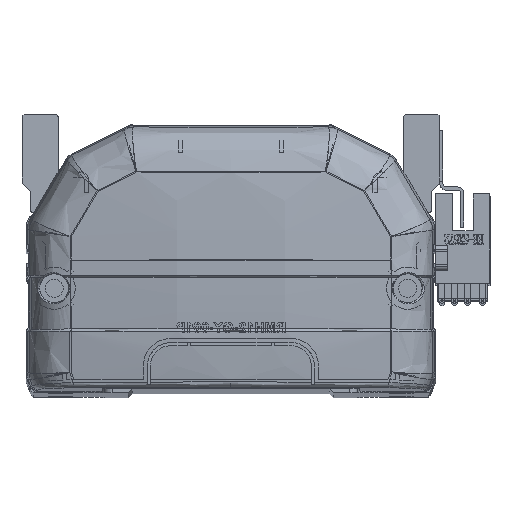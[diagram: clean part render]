
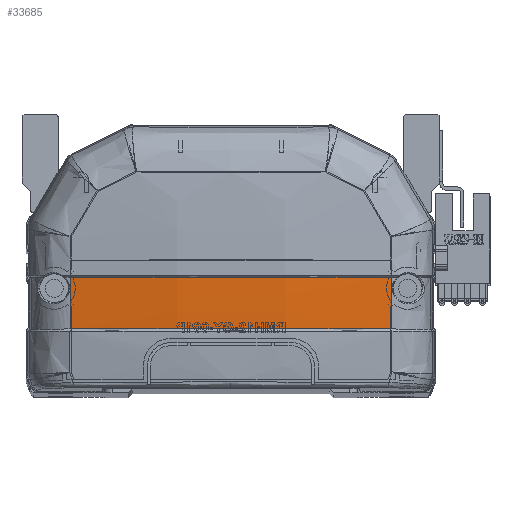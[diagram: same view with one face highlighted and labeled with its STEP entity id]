
A CAD part, top view. The second image highlights one B-rep face of the part: STEP entity #33685.
In plain terms, the highlighted free-form (B-spline) face has degree [3, 3] with [4, 4] control points.
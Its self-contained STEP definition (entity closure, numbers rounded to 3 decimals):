
#1383 = VERTEX_POINT ( 'NONE', #38737 ) ;
#1691 = CARTESIAN_POINT ( 'NONE',  ( -13.598, 24.342, -10.47 ) ) ;
#2018 = CARTESIAN_POINT ( 'NONE',  ( -13.598, 19.918, -10.302 ) ) ;
#2598 = CARTESIAN_POINT ( 'NONE',  ( -6.692, 15.83, -8.984 ) ) ;
#3015 = CARTESIAN_POINT ( 'NONE',  ( -13.373, 28.707, -9.468 ) ) ;
#4153 = ORIENTED_EDGE ( 'NONE', *, *, #28339, .T. ) ;
#5441 = CARTESIAN_POINT ( 'NONE',  ( 13.598, 19.918, -10.302 ) ) ;
#6231 = CARTESIAN_POINT ( 'NONE',  ( 39.973, 20.12, -6.142 ) ) ;
#7169 = EDGE_CURVE ( 'NONE', #1383, #9226, #37295, .T. ) ;
#7353 = CARTESIAN_POINT ( 'NONE',  ( -39.963, 28.706, -6.372 ) ) ;
#9226 = VERTEX_POINT ( 'NONE', #41699 ) ;
#9933 = CARTESIAN_POINT ( 'NONE',  ( 39.963, 28.706, -6.372 ) ) ;
#10164 = CARTESIAN_POINT ( 'NONE',  ( -23.389, 15.83, -7.947 ) ) ;
#10336 = CARTESIAN_POINT ( 'NONE',  ( 26.761, 15.83, -7.945 ) ) ;
#12951 = B_SPLINE_CURVE_WITH_KNOTS ( 'NONE', 3,
 ( #7353, #22303, #14831, #44831 ),
 .UNSPECIFIED., .F., .F.,
 ( 4, 4 ),
 ( 0., 1. ),
 .UNSPECIFIED. ) ;
#13239 = CARTESIAN_POINT ( 'NONE',  ( 13.598, 15.499, -10.032 ) ) ;
#13838 = CARTESIAN_POINT ( 'NONE',  ( 39.963, 28.706, -6.372 ) ) ;
#14140 = CARTESIAN_POINT ( 'NONE',  ( -36.679, 15.83, -6.395 ) ) ;
#14177 = CARTESIAN_POINT ( 'NONE',  ( 39.985, 15.83, -5.879 ) ) ;
#14296 = CARTESIAN_POINT ( 'NONE',  ( -39.985, 15.83, -5.879 ) ) ;
#14831 = CARTESIAN_POINT ( 'NONE',  ( -39.973, 20.118, -6.142 ) ) ;
#15267 = B_SPLINE_CURVE_WITH_KNOTS ( 'NONE', 3,
 ( #14177, #6231, #48672, #13838 ),
 .UNSPECIFIED., .F., .F.,
 ( 4, 4 ),
 ( 0., 1. ),
 .UNSPECIFIED. ) ;
#15737 = EDGE_CURVE ( 'NONE', #25195, #9226, #12951, .T. ) ;
#16475 = FACE_OUTER_BOUND ( 'NONE', #18021, .T. ) ;
#17353 = CARTESIAN_POINT ( 'NONE',  ( -40.461, 28.832, -6.296 ) ) ;
#18021 = EDGE_LOOP ( 'NONE', ( #4153, #30718, #21620, #48255 ) ) ;
#20688 = CARTESIAN_POINT ( 'NONE',  ( -40.461, 15.757, -5.8 ) ) ;
#21620 = ORIENTED_EDGE ( 'NONE', *, *, #15737, .T. ) ;
#22303 = CARTESIAN_POINT ( 'NONE',  ( -39.966, 24.412, -6.306 ) ) ;
#24786 = CARTESIAN_POINT ( 'NONE',  ( -13.598, 15.499, -10.032 ) ) ;
#25195 = VERTEX_POINT ( 'NONE', #47152 ) ;
#25211 = CARTESIAN_POINT ( 'NONE',  ( 13.38, 15.83, -8.984 ) ) ;
#28339 = EDGE_CURVE ( 'NONE', #1383, #37264, #15267, .T. ) ;
#28584 = CARTESIAN_POINT ( 'NONE',  ( 13.598, 28.769, -10.535 ) ) ;
#28780 = CARTESIAN_POINT ( 'NONE',  ( -26.748, 28.706, -8.432 ) ) ;
#30718 = ORIENTED_EDGE ( 'NONE', *, *, #40488, .F. ) ;
#31921 = CARTESIAN_POINT ( 'NONE',  ( -13.598, 28.769, -10.535 ) ) ;
#32418 = CARTESIAN_POINT ( 'NONE',  ( -40.461, 24.47, -6.231 ) ) ;
#33085 = CARTESIAN_POINT ( 'NONE',  ( 26.749, 28.706, -8.432 ) ) ;
#33324 = CARTESIAN_POINT ( 'NONE',  ( -13.384, 15.83, -8.724 ) ) ;
#33685 = ADVANCED_FACE ( 'NONE', ( #16475 ), #34552, .F. ) ;
#34552 =( BOUNDED_SURFACE ( )  B_SPLINE_SURFACE ( 3, 3, ( 
 ( #43529, #39558, #47060, #47556 ),
 ( #13239, #5441, #43353, #28584 ),
 ( #24786, #2018, #1691, #31921 ),
 ( #20688, #47242, #32418, #17353 ) ),
 .UNSPECIFIED., .F., .F., .F. ) 
 B_SPLINE_SURFACE_WITH_KNOTS ( ( 4, 4 ),
 ( 4, 4 ),
 ( 0., 1. ),
 ( 0., 1. ),
 .UNSPECIFIED. ) 
 GEOMETRIC_REPRESENTATION_ITEM ( )  RATIONAL_B_SPLINE_SURFACE ( (
 ( 1., 1., 1., 1.),
 ( 0.992, 0.992, 0.992, 0.992),
 ( 0.992, 0.992, 0.992, 0.992),
 ( 1., 1., 1., 1.) ) ) 
 REPRESENTATION_ITEM ( '' )  SURFACE ( )  );
#36575 = CARTESIAN_POINT ( 'NONE',  ( 13.375, 28.707, -9.468 ) ) ;
#37264 = VERTEX_POINT ( 'NONE', #39296 ) ;
#37295 = B_SPLINE_CURVE_WITH_KNOTS ( 'NONE', 3,
 ( #44111, #10336, #25211, #2598, #33324, #10164, #40468, #40657, #14140, #14296 ),
 .UNSPECIFIED., .F., .F.,
 ( 4, 2, 2, 2, 4 ),
 ( 0., 0.04, 0.06, 0.07, 0.08 ),
 .UNSPECIFIED. ) ;
#38737 = CARTESIAN_POINT ( 'NONE',  ( 39.985, 15.83, -5.879 ) ) ;
#39296 = CARTESIAN_POINT ( 'NONE',  ( 39.963, 28.706, -6.372 ) ) ;
#39558 = CARTESIAN_POINT ( 'NONE',  ( 40.461, 20.111, -6.066 ) ) ;
#40468 = CARTESIAN_POINT ( 'NONE',  ( -26.721, 15.83, -7.624 ) ) ;
#40488 = EDGE_CURVE ( 'NONE', #25195, #37264, #49149, .T. ) ;
#40657 = CARTESIAN_POINT ( 'NONE',  ( -33.365, 15.83, -6.848 ) ) ;
#41699 = CARTESIAN_POINT ( 'NONE',  ( -39.985, 15.83, -5.879 ) ) ;
#43353 = CARTESIAN_POINT ( 'NONE',  ( 13.598, 24.342, -10.47 ) ) ;
#43529 = CARTESIAN_POINT ( 'NONE',  ( 40.461, 15.757, -5.8 ) ) ;
#44111 = CARTESIAN_POINT ( 'NONE',  ( 39.985, 15.83, -5.879 ) ) ;
#44212 = CARTESIAN_POINT ( 'NONE',  ( -39.963, 28.706, -6.372 ) ) ;
#44831 = CARTESIAN_POINT ( 'NONE',  ( -39.985, 15.83, -5.879 ) ) ;
#47060 = CARTESIAN_POINT ( 'NONE',  ( 40.461, 24.47, -6.231 ) ) ;
#47152 = CARTESIAN_POINT ( 'NONE',  ( -39.963, 28.706, -6.372 ) ) ;
#47242 = CARTESIAN_POINT ( 'NONE',  ( -40.461, 20.111, -6.066 ) ) ;
#47556 = CARTESIAN_POINT ( 'NONE',  ( 40.461, 28.832, -6.296 ) ) ;
#48255 = ORIENTED_EDGE ( 'NONE', *, *, #7169, .F. ) ;
#48672 = CARTESIAN_POINT ( 'NONE',  ( 39.966, 24.413, -6.306 ) ) ;
#49149 = B_SPLINE_CURVE_WITH_KNOTS ( 'NONE', 3,
 ( #44212, #28780, #3015, #36575, #33085, #9933 ),
 .UNSPECIFIED., .F., .F.,
 ( 4, 2, 4 ),
 ( 0., 0.5, 1. ),
 .UNSPECIFIED. ) ;
